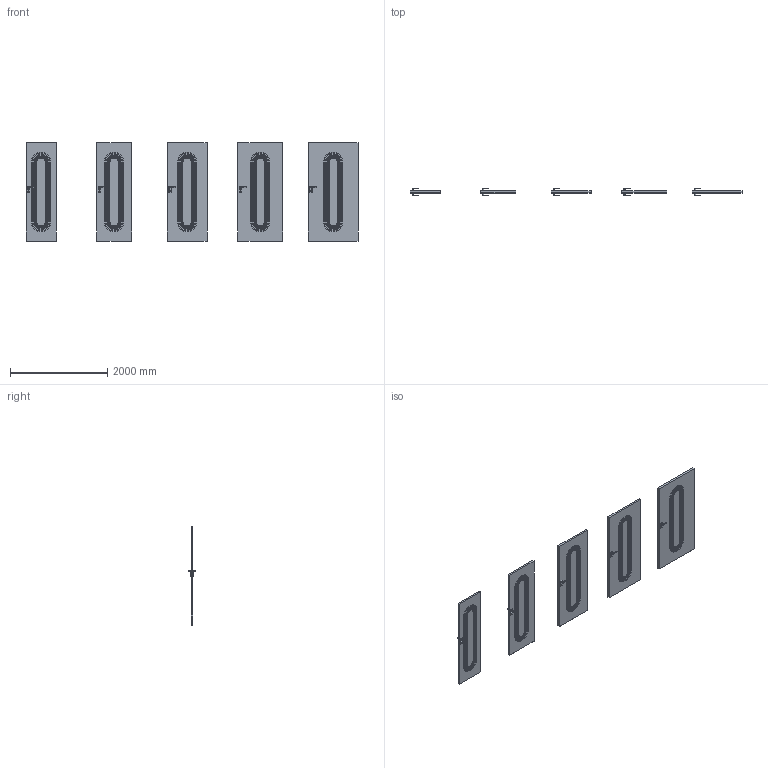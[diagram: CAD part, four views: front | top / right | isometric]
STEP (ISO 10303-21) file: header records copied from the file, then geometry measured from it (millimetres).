
FILE_DESCRIPTION(/* description */ (''),/* implementation_level */ '2;1');
FILE_NAME(/* name */ '049843_A_2-Skrzydło ART DECO model 3_ polska norma _PN__ bezprzylgowe..stp',/* time_stamp */ '2024-09-02T10:46:27+02:00',/* author */ (''),/* organization */ (''),/* preprocessor_version */ 'ST-DEVELOPER v16',/* originating_system */ 'SIEMENS PLM Software NX 11.0',/* authorisation */ '');
FILE_SCHEMA (('AUTOMOTIVE_DESIGN { 1 0 10303 214 3 1 1 1 }'));
Products named in the file (1): bkni1684CEC86ezy
Bounding box: 6818 x 153.13 x 2017 mm (x, y, z)
Volume: 322727228.4 mm3; surface area: 17928541.3 mm2
Topology: 25 solids, 25 shells, 2180 faces, 4850 edges, 2720 vertices
Faces by surface type: plane 660, cylinder 620, torus 400, cone 200, bspline 160, sphere 140
Entity records: 64429 total; most frequent: CARTESIAN_POINT 16631, DIRECTION 10652, ORIENTED_EDGE 9420, EDGE_CURVE 4710, AXIS2_PLACEMENT_3D 4221, VERTEX_POINT 2720, EDGE_LOOP 2340, LINE 2210
